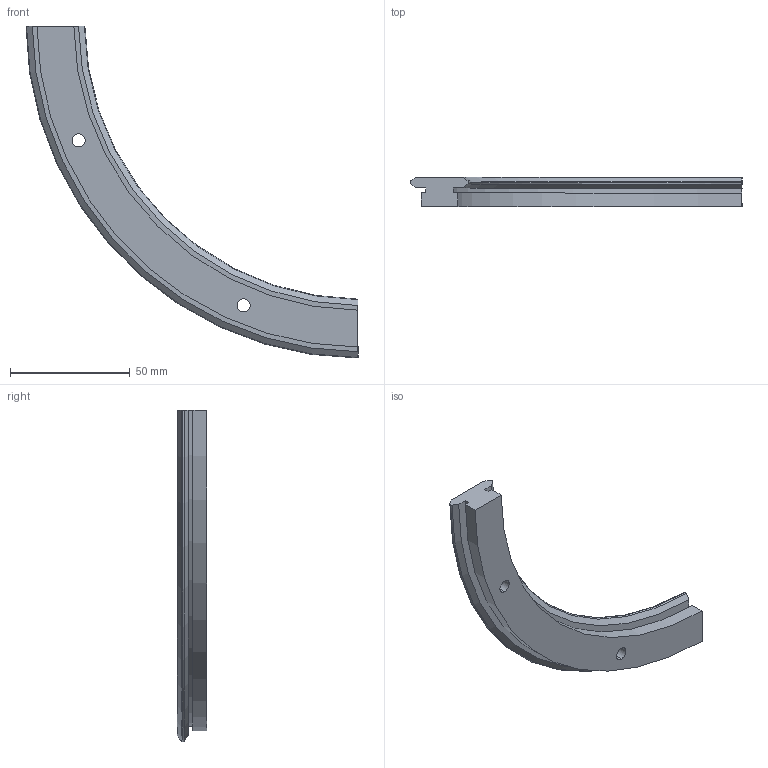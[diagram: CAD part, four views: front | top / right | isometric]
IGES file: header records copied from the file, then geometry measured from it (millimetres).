
Start section: 3D InterOp IGES (v. 2020 1.0.1), Spatial Corp. Copyright (c) 1999-2017.
Global section: file name: r25_255_r90.igs; native system: Spatial Corp.; preprocessor: 3D InterOp ACIS/IGES; author: TraceParts; organization: TraceParts S.A.; date: 20220624.070017; units: millimetre
Bounding box: 138.8 x 12.25 x 138.8 mm (x, y, z)
Surface area: 16031.8 mm2 (no closed solid volume)
Topology: 0 solids, 0 shells, 30 faces, 156 edges, 156 vertices
Faces by surface type: revolution 20, extrusion 10
